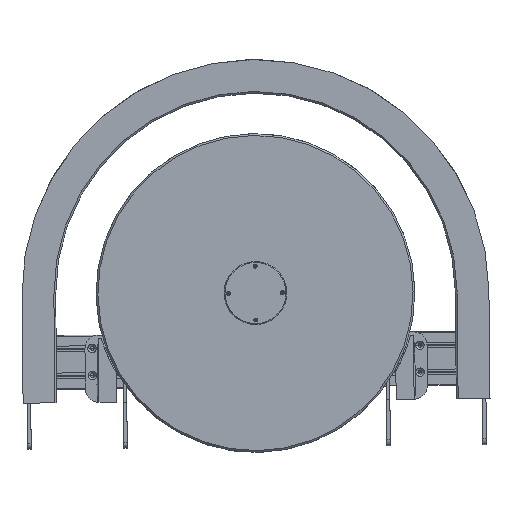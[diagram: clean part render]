
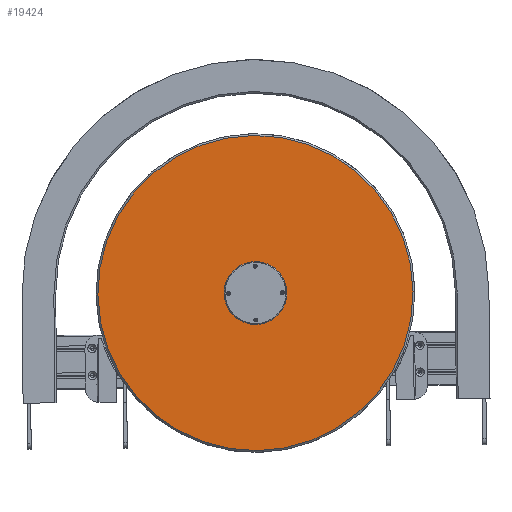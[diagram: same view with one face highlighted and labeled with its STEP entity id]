
A CAD part, front view. The second image highlights one B-rep face of the part: STEP entity #19424.
In plain terms, the highlighted planar face has unit normal (0, -1, 0) as drawn and (0, 1, 0) by its records, which use the part's own axes.
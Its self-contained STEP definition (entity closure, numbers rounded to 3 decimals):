
#117 = VERTEX_POINT ( 'NONE', #11145 ) ;
#880 = EDGE_CURVE ( 'NONE', #10719, #19889, #11539, .T. ) ;
#1842 = DIRECTION ( 'NONE',  ( 0., 1., 0. ) ) ;
#2554 = ORIENTED_EDGE ( 'NONE', *, *, #31801, .F. ) ;
#2573 = AXIS2_PLACEMENT_3D ( 'NONE', #26206, #15414, #34380 ) ;
#2585 = DIRECTION ( 'NONE',  ( 0., 1., 0. ) ) ;
#3059 = CIRCLE ( 'NONE', #32028, 0.75 ) ;
#3114 = DIRECTION ( 'NONE',  ( 0., 0., 1. ) ) ;
#3233 = CIRCLE ( 'NONE', #35183, 0.75 ) ;
#3402 = CIRCLE ( 'NONE', #17063, 0.75 ) ;
#3406 = DIRECTION ( 'NONE',  ( 0., 0., 1. ) ) ;
#3761 = EDGE_CURVE ( 'NONE', #15599, #17488, #3233, .T. ) ;
#3933 = DIRECTION ( 'NONE',  ( 0., 1., 0. ) ) ;
#4063 = AXIS2_PLACEMENT_3D ( 'NONE', #31504, #34457, #20676 ) ;
#4743 = AXIS2_PLACEMENT_3D ( 'NONE', #17741, #3933, #31381 ) ;
#4748 = AXIS2_PLACEMENT_3D ( 'NONE', #27841, #33343, #3406 ) ;
#5402 = DIRECTION ( 'NONE',  ( 0., 0., 1. ) ) ;
#5407 = AXIS2_PLACEMENT_3D ( 'NONE', #25197, #14761, #22559 ) ;
#5649 = EDGE_CURVE ( 'NONE', #28432, #30987, #16799, .T. ) ;
#5719 = CARTESIAN_POINT ( 'NONE',  ( 0., 10., 30.75 ) ) ;
#5915 = VERTEX_POINT ( 'NONE', #34159 ) ;
#6316 = ORIENTED_EDGE ( 'NONE', *, *, #7295, .F. ) ;
#6376 = CIRCLE ( 'NONE', #4063, 0.75 ) ;
#6381 = EDGE_LOOP ( 'NONE', ( #19921, #6552 ) ) ;
#6552 = ORIENTED_EDGE ( 'NONE', *, *, #24414, .T. ) ;
#7231 = FACE_BOUND ( 'NONE', #17852, .T. ) ;
#7295 = EDGE_CURVE ( 'NONE', #19889, #10719, #6376, .T. ) ;
#7531 = DIRECTION ( 'NONE',  ( 0., 0., 1. ) ) ;
#7808 = EDGE_CURVE ( 'NONE', #17488, #15599, #33577, .T. ) ;
#8106 = CARTESIAN_POINT ( 'NONE',  ( 0., 10., -30. ) ) ;
#8379 = CARTESIAN_POINT ( 'NONE',  ( 30., 10., -0.75 ) ) ;
#8588 = DIRECTION ( 'NONE',  ( 0., 1., 0. ) ) ;
#8972 = EDGE_LOOP ( 'NONE', ( #15378, #24396 ) ) ;
#9799 = FACE_BOUND ( 'NONE', #8972, .T. ) ;
#10079 = DIRECTION ( 'NONE',  ( 0., 0., 1. ) ) ;
#10646 = FACE_BOUND ( 'NONE', #22473, .T. ) ;
#10719 = VERTEX_POINT ( 'NONE', #8379 ) ;
#10926 = VERTEX_POINT ( 'NONE', #19597 ) ;
#11145 = CARTESIAN_POINT ( 'NONE',  ( 0., 10., -175.5 ) ) ;
#11539 = CIRCLE ( 'NONE', #17944, 0.75 ) ;
#11542 = AXIS2_PLACEMENT_3D ( 'NONE', #34377, #12794, #18138 ) ;
#12055 = CARTESIAN_POINT ( 'NONE',  ( 0., 10., -25. ) ) ;
#12774 = CARTESIAN_POINT ( 'NONE',  ( 30., 10., 0. ) ) ;
#12794 = DIRECTION ( 'NONE',  ( 0., 1., 0. ) ) ;
#13605 = FACE_OUTER_BOUND ( 'NONE', #6381, .T. ) ;
#13631 = CARTESIAN_POINT ( 'NONE',  ( 0., 10., -30.75 ) ) ;
#13672 = DIRECTION ( 'NONE',  ( 0., 1., 0. ) ) ;
#14761 = DIRECTION ( 'NONE',  ( 0., 1., 0. ) ) ;
#15101 = DIRECTION ( 'NONE',  ( 0., 1., 0. ) ) ;
#15120 = CIRCLE ( 'NONE', #19685, 0.75 ) ;
#15378 = ORIENTED_EDGE ( 'NONE', *, *, #21780, .F. ) ;
#15414 = DIRECTION ( 'NONE',  ( 0., 1., 0. ) ) ;
#15599 = VERTEX_POINT ( 'NONE', #31863 ) ;
#15778 = FACE_BOUND ( 'NONE', #16587, .T. ) ;
#16056 = EDGE_CURVE ( 'NONE', #5915, #28049, #18135, .T. ) ;
#16164 = EDGE_LOOP ( 'NONE', ( #2554, #18499 ) ) ;
#16587 = EDGE_LOOP ( 'NONE', ( #32774, #27264 ) ) ;
#16799 = CIRCLE ( 'NONE', #5407, 25. ) ;
#17063 = AXIS2_PLACEMENT_3D ( 'NONE', #28925, #15101, #10079 ) ;
#17488 = VERTEX_POINT ( 'NONE', #30497 ) ;
#17551 = CIRCLE ( 'NONE', #27980, 25. ) ;
#17741 = CARTESIAN_POINT ( 'NONE',  ( -30., 10., 0. ) ) ;
#17852 = EDGE_LOOP ( 'NONE', ( #6316, #32397 ) ) ;
#17891 = AXIS2_PLACEMENT_3D ( 'NONE', #31643, #1842, #20805 ) ;
#17944 = AXIS2_PLACEMENT_3D ( 'NONE', #12774, #31875, #7531 ) ;
#18135 = CIRCLE ( 'NONE', #11542, 0.75 ) ;
#18138 = DIRECTION ( 'NONE',  ( 0., 0., 1. ) ) ;
#18499 = ORIENTED_EDGE ( 'NONE', *, *, #33368, .F. ) ;
#19110 = CARTESIAN_POINT ( 'NONE',  ( 0., 10., 30. ) ) ;
#19424 = ADVANCED_FACE ( 'NONE', ( #10646, #7231, #35257, #15778, #13605, #9799 ), #22508, .T. ) ;
#19597 = CARTESIAN_POINT ( 'NONE',  ( 0., 10., 29.25 ) ) ;
#19685 = AXIS2_PLACEMENT_3D ( 'NONE', #8106, #8588, #3114 ) ;
#19889 = VERTEX_POINT ( 'NONE', #25090 ) ;
#19921 = ORIENTED_EDGE ( 'NONE', *, *, #29456, .T. ) ;
#20676 = DIRECTION ( 'NONE',  ( 0., 0., 1. ) ) ;
#20805 = DIRECTION ( 'NONE',  ( 0., 0., 1. ) ) ;
#21506 = CARTESIAN_POINT ( 'NONE',  ( 0., 10., 175.5 ) ) ;
#21720 = DIRECTION ( 'NONE',  ( 0., 0., 1. ) ) ;
#21780 = EDGE_CURVE ( 'NONE', #30987, #28432, #17551, .T. ) ;
#22473 = EDGE_LOOP ( 'NONE', ( #30799, #25742 ) ) ;
#22508 = PLANE ( 'NONE',  #4748 ) ;
#22559 = DIRECTION ( 'NONE',  ( 0., 0., 1. ) ) ;
#23658 = CIRCLE ( 'NONE', #17891, 175.5 ) ;
#24396 = ORIENTED_EDGE ( 'NONE', *, *, #5649, .F. ) ;
#24414 = EDGE_CURVE ( 'NONE', #34197, #117, #35072, .T. ) ;
#25090 = CARTESIAN_POINT ( 'NONE',  ( 30., 10., 0.75 ) ) ;
#25197 = CARTESIAN_POINT ( 'NONE',  ( 0., 10., 0. ) ) ;
#25742 = ORIENTED_EDGE ( 'NONE', *, *, #27132, .F. ) ;
#26206 = CARTESIAN_POINT ( 'NONE',  ( 0., 10., 0. ) ) ;
#27132 = EDGE_CURVE ( 'NONE', #28049, #5915, #15120, .T. ) ;
#27264 = ORIENTED_EDGE ( 'NONE', *, *, #7808, .F. ) ;
#27363 = CARTESIAN_POINT ( 'NONE',  ( 0., 10., 0. ) ) ;
#27841 = CARTESIAN_POINT ( 'NONE',  ( 0., 10., 0. ) ) ;
#27980 = AXIS2_PLACEMENT_3D ( 'NONE', #27363, #2585, #5402 ) ;
#28049 = VERTEX_POINT ( 'NONE', #13631 ) ;
#28432 = VERTEX_POINT ( 'NONE', #12055 ) ;
#28694 = DIRECTION ( 'NONE',  ( 0., 1., 0. ) ) ;
#28925 = CARTESIAN_POINT ( 'NONE',  ( 0., 10., 30. ) ) ;
#29456 = EDGE_CURVE ( 'NONE', #117, #34197, #23658, .T. ) ;
#30221 = VERTEX_POINT ( 'NONE', #5719 ) ;
#30497 = CARTESIAN_POINT ( 'NONE',  ( -30., 10., -0.75 ) ) ;
#30799 = ORIENTED_EDGE ( 'NONE', *, *, #16056, .F. ) ;
#30987 = VERTEX_POINT ( 'NONE', #34845 ) ;
#31381 = DIRECTION ( 'NONE',  ( 0., 0., 1. ) ) ;
#31504 = CARTESIAN_POINT ( 'NONE',  ( 30., 10., 0. ) ) ;
#31643 = CARTESIAN_POINT ( 'NONE',  ( 0., 10., 0. ) ) ;
#31801 = EDGE_CURVE ( 'NONE', #30221, #10926, #3059, .T. ) ;
#31863 = CARTESIAN_POINT ( 'NONE',  ( -30., 10., 0.75 ) ) ;
#31875 = DIRECTION ( 'NONE',  ( 0., 1., 0. ) ) ;
#32028 = AXIS2_PLACEMENT_3D ( 'NONE', #19110, #13672, #32643 ) ;
#32397 = ORIENTED_EDGE ( 'NONE', *, *, #880, .F. ) ;
#32643 = DIRECTION ( 'NONE',  ( 0., 0., 1. ) ) ;
#32774 = ORIENTED_EDGE ( 'NONE', *, *, #3761, .F. ) ;
#33343 = DIRECTION ( 'NONE',  ( 0., 1., 0. ) ) ;
#33368 = EDGE_CURVE ( 'NONE', #10926, #30221, #3402, .T. ) ;
#33577 = CIRCLE ( 'NONE', #4743, 0.75 ) ;
#34159 = CARTESIAN_POINT ( 'NONE',  ( 0., 10., -29.25 ) ) ;
#34197 = VERTEX_POINT ( 'NONE', #21506 ) ;
#34377 = CARTESIAN_POINT ( 'NONE',  ( 0., 10., -30. ) ) ;
#34380 = DIRECTION ( 'NONE',  ( 0., 0., 1. ) ) ;
#34457 = DIRECTION ( 'NONE',  ( 0., 1., 0. ) ) ;
#34845 = CARTESIAN_POINT ( 'NONE',  ( 0., 10., 25. ) ) ;
#35047 = CARTESIAN_POINT ( 'NONE',  ( -30., 10., 0. ) ) ;
#35072 = CIRCLE ( 'NONE', #2573, 175.5 ) ;
#35183 = AXIS2_PLACEMENT_3D ( 'NONE', #35047, #28694, #21720 ) ;
#35257 = FACE_BOUND ( 'NONE', #16164, .T. ) ;
